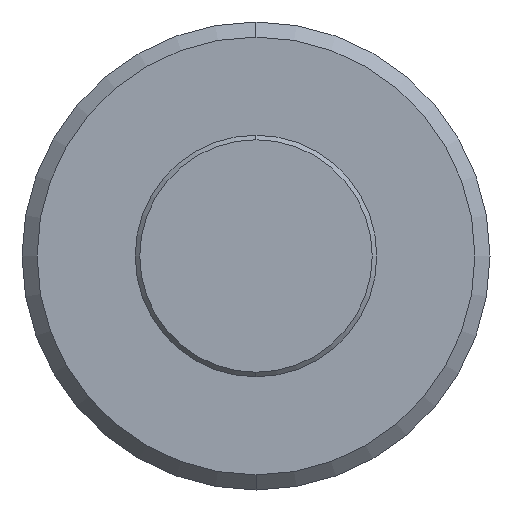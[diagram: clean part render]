
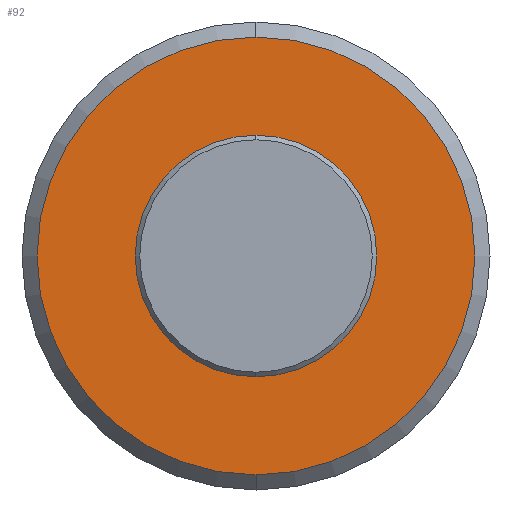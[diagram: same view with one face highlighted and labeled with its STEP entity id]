
A CAD part, left-side view. The second image highlights one B-rep face of the part: STEP entity #92.
In plain terms, the highlighted planar face has unit normal (-1, 0, 0).
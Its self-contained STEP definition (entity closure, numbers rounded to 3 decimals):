
#8 = DIRECTION ( 'NONE',  ( 1., 0., 0. ) ) ;
#15 = CARTESIAN_POINT ( 'NONE',  ( -24.026, 0., 0. ) ) ;
#25 = DIRECTION ( 'NONE',  ( 0., 0., 1. ) ) ;
#42 = CARTESIAN_POINT ( 'NONE',  ( -24.026, 8., 0. ) ) ;
#51 = VERTEX_POINT ( 'NONE', #528 ) ;
#59 = DIRECTION ( 'NONE',  ( -1., 0., 0. ) ) ;
#63 = VERTEX_POINT ( 'NONE', #93 ) ;
#75 = AXIS2_PLACEMENT_3D ( 'NONE', #166, #265, #307 ) ;
#83 = AXIS2_PLACEMENT_3D ( 'NONE', #42, #8, #547 ) ;
#89 = ORIENTED_EDGE ( 'NONE', *, *, #363, .T. ) ;
#92 = ADVANCED_FACE ( 'NONE', ( #326, #146 ), #333, .F. ) ;
#93 = CARTESIAN_POINT ( 'NONE',  ( -24.026, 0., -14.5 ) ) ;
#146 = FACE_OUTER_BOUND ( 'NONE', #434, .T. ) ;
#166 = CARTESIAN_POINT ( 'NONE',  ( -24.026, 0., 0. ) ) ;
#167 = AXIS2_PLACEMENT_3D ( 'NONE', #318, #229, #25 ) ;
#173 = CARTESIAN_POINT ( 'NONE',  ( -24.026, 0., 8. ) ) ;
#180 = VERTEX_POINT ( 'NONE', #173 ) ;
#218 = CARTESIAN_POINT ( 'NONE',  ( -24.026, 0., 14.5 ) ) ;
#226 = ORIENTED_EDGE ( 'NONE', *, *, #411, .T. ) ;
#229 = DIRECTION ( 'NONE',  ( -1., 0., 0. ) ) ;
#255 = EDGE_CURVE ( 'NONE', #51, #180, #560, .T. ) ;
#258 = VERTEX_POINT ( 'NONE', #218 ) ;
#260 = EDGE_CURVE ( 'NONE', #180, #51, #270, .T. ) ;
#265 = DIRECTION ( 'NONE',  ( -1., 0., 0. ) ) ;
#270 = CIRCLE ( 'NONE', #598, 8. ) ;
#277 = DIRECTION ( 'NONE',  ( 0., 0., 1. ) ) ;
#306 = DIRECTION ( 'NONE',  ( 0., 0., 1. ) ) ;
#307 = DIRECTION ( 'NONE',  ( 0., 0., 1. ) ) ;
#318 = CARTESIAN_POINT ( 'NONE',  ( -24.026, 0., 0. ) ) ;
#326 = FACE_BOUND ( 'NONE', #491, .T. ) ;
#333 = PLANE ( 'NONE',  #83 ) ;
#363 = EDGE_CURVE ( 'NONE', #63, #258, #581, .T. ) ;
#373 = CARTESIAN_POINT ( 'NONE',  ( -24.026, 0., 0. ) ) ;
#384 = ORIENTED_EDGE ( 'NONE', *, *, #260, .F. ) ;
#408 = ORIENTED_EDGE ( 'NONE', *, *, #255, .F. ) ;
#411 = EDGE_CURVE ( 'NONE', #258, #63, #623, .T. ) ;
#430 = DIRECTION ( 'NONE',  ( -1., 0., 0. ) ) ;
#434 = EDGE_LOOP ( 'NONE', ( #89, #226 ) ) ;
#491 = EDGE_LOOP ( 'NONE', ( #384, #408 ) ) ;
#528 = CARTESIAN_POINT ( 'NONE',  ( -24.026, 0., -8. ) ) ;
#539 = AXIS2_PLACEMENT_3D ( 'NONE', #373, #430, #277 ) ;
#547 = DIRECTION ( 'NONE',  ( 0., 0., -1. ) ) ;
#560 = CIRCLE ( 'NONE', #75, 8. ) ;
#581 = CIRCLE ( 'NONE', #539, 14.5 ) ;
#598 = AXIS2_PLACEMENT_3D ( 'NONE', #15, #59, #306 ) ;
#623 = CIRCLE ( 'NONE', #167, 14.5 ) ;
